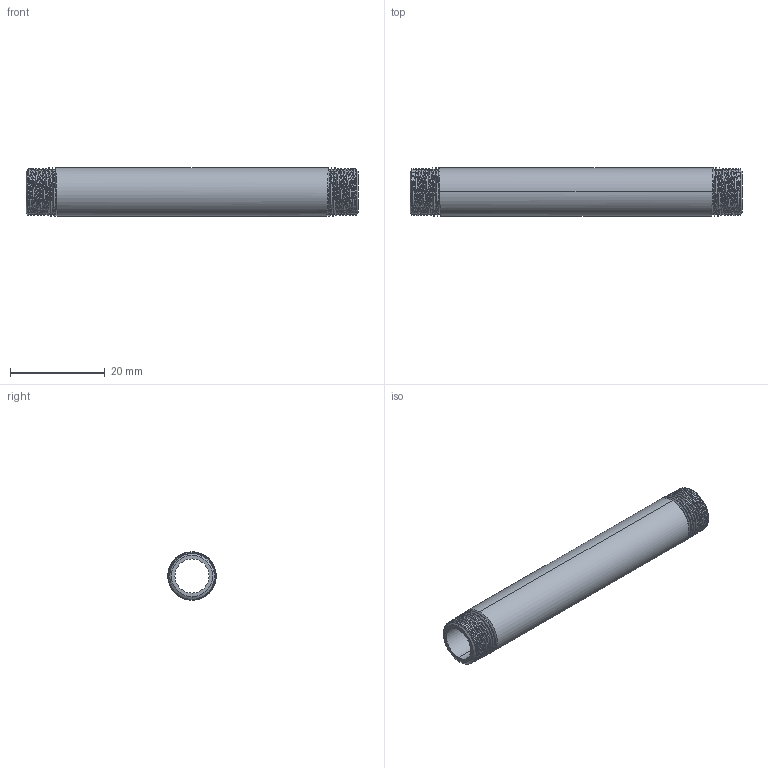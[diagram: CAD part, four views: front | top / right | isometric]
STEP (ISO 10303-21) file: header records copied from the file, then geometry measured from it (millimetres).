
FILE_DESCRIPTION (( 'STEP AP203' ), '1' );
FILE_NAME ('3D_R210_1-8x70_17185692.STEP', '2024-08-16T11:07:25', ( '' ), ( '' ), 'SwSTEP 2.0', 'SolidWorks 2024', '' );
FILE_SCHEMA (( 'CONFIG_CONTROL_DESIGN' ));
Length unit declared in the file: millimetre
Products named in the file (1): 3D_R210_1-8x70_17185692
Bounding box: 70 x 10.2 x 10.2 mm (x, y, z)
Volume: 2779.2 mm3; surface area: 4039.8 mm2
Topology: 1 solids, 1 shells, 54 faces, 150 edges, 98 vertices
Faces by surface type: cone 40, bspline 6, cylinder 4, plane 4
Entity records: 6878 total; most frequent: CARTESIAN_POINT 5622, ORIENTED_EDGE 300, DIRECTION 166, EDGE_CURVE 150, VERTEX_POINT 98, B_SPLINE_CURVE_WITH_KNOTS 86, AXIS2_PLACEMENT_3D 61, EDGE_LOOP 56
